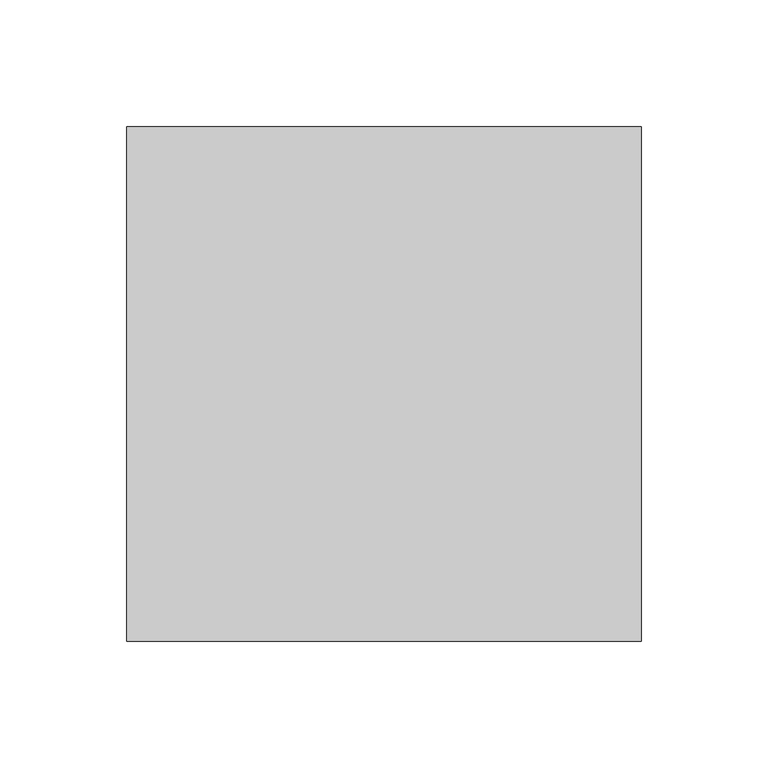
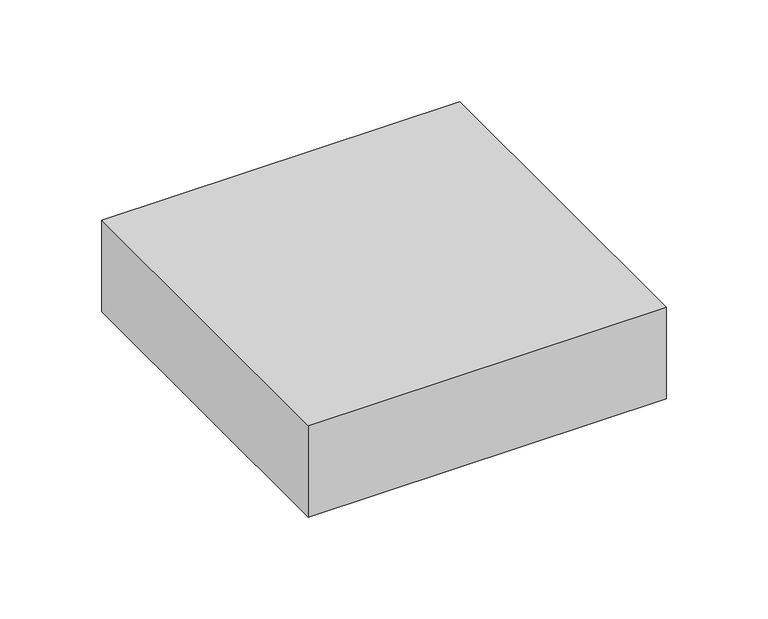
"""IFC4 building model written with IfcOpenShell, lengths in millimetres: proxy geometry, Placeholder_Polyseam : Placeholder_Polyseam."""

import ifcopenshell
import ifcopenshell.guid

model = None  # the IFC model being written
_history = None  # IfcOwnerHistory: only IFC2X3 demands one
_inside = {}  # id of a spatial element -> (the spatial element, [elements in it])
_under = {}  # id of a project, library or spatial element -> (it, [spatial elements below it])
_declared = {}  # id of a project -> (the project, [libraries it declares])
_typed = {}  # id of a type object -> (the type object, [elements of that type])
_made_of = {}  # id of a material, layer set ... -> (it, [elements and type objects made of it])


def new_model(schema):
    """Start an empty IFC model of exactly this schema.

    Asked for "IFC4X3", IfcOpenShell would pick the latest addendum, in which some entities
    have other attributes; the version numbers below select the first issue.
    IFC2X3 requires an IfcOwnerHistory on every rooted entity: one is made here for all.
    """
    global model, _history
    if schema == "IFC4X3":
        model = ifcopenshell.file(schema_version=(4, 3, 0, 0))
    else:
        model = ifcopenshell.file(schema=schema)
    _inside.clear()
    _under.clear()
    _declared.clear()
    _typed.clear()
    _made_of.clear()
    _history = None
    if model.schema == "IFC2X3":
        org = make("IfcOrganization", Name="unknown")
        user = make(
            "IfcPersonAndOrganization",
            ThePerson=make("IfcPerson", FamilyName="unknown"),
            TheOrganization=org,
        )
        app = make(
            "IfcApplication",
            ApplicationDeveloper=org,
            Version="unknown",
            ApplicationFullName="unknown",
            ApplicationIdentifier="unknown",
        )
        _history = make(
            "IfcOwnerHistory",
            OwningUser=user,
            OwningApplication=app,
            ChangeAction="ADDED",
            CreationDate=0,
        )
    return model


def make(cls, **values):
    """One entity of the class cls with the attributes given. An attribute that is None is left unset."""
    return model.create_entity(
        cls, **{name: value for name, value in values.items() if value is not None}
    )


def rooted(cls, **values):
    """An entity with a GlobalId (a new one), such as an element, a storey or a relation."""
    return make(cls, GlobalId=ifcopenshell.guid.new(), OwnerHistory=_history, **values)


def si_unit(unit_type, name, prefix=None):
    """IfcSIUnit, for example si_unit("LENGTHUNIT", "METRE", prefix="MILLI")."""
    return make("IfcSIUnit", UnitType=unit_type, Prefix=prefix, Name=name)


def assignment(units):
    """IfcUnitAssignment: the units of a project."""
    return None if units is None else make("IfcUnitAssignment", Units=units)


def point(xyz):
    """IfcCartesianPoint."""
    return None if xyz is None else make("IfcCartesianPoint", Coordinates=xyz)


def direction(xyz):
    """IfcDirection."""
    return None if xyz is None else make("IfcDirection", DirectionRatios=xyz)


def frame(location, z_axis=None, x_axis=None):
    """IfcAxis2Placement3D, a coordinate frame: its origin and axes. An axis left out is left unset."""
    return make(
        "IfcAxis2Placement3D",
        Location=point(location),
        Axis=direction(z_axis),
        RefDirection=direction(x_axis),
    )


def origin():
    """The frame at (0, 0, 0) with its axes left unset."""
    return frame((0.0, 0.0, 0.0))


def origin_with_axes():
    """The frame at (0, 0, 0) with the z axis (0, 0, 1) and the x axis (1, 0, 0) written out."""
    return frame((0.0, 0.0, 0.0), z_axis=(0.0, 0.0, 1.0), x_axis=(1.0, 0.0, 0.0))


def place(relative_to, where):
    """IfcLocalPlacement: puts the frame where relative to a parent placement (None: the world)."""
    return make(
        "IfcLocalPlacement", PlacementRelTo=relative_to, RelativePlacement=where
    )


def context(
    kind, dimensions, precision=None, world=None, true_north=None, identifier=None
):
    """IfcGeometricRepresentationContext, for example the 3D "Model" context."""
    return make(
        "IfcGeometricRepresentationContext",
        ContextIdentifier=identifier,
        ContextType=kind,
        CoordinateSpaceDimension=dimensions,
        Precision=precision,
        WorldCoordinateSystem=world,
        TrueNorth=true_north,
    )


def project(units=None, contexts=None):
    """IfcProject with its units and contexts."""
    return rooted(
        "IfcProject",
        Name="project",
        RepresentationContexts=contexts,
        UnitsInContext=assignment(units),
    )


def spatial(cls, under=None, at=None, **own):
    """A site, building, storey or space (cls), placed at a placement, below another one or the project."""
    s = rooted(cls, ObjectPlacement=at, **own)
    if under is not None:
        _under.setdefault(under.id(), (under, []))[1].append(s)
    return s


def polyline(points):
    """IfcPolyline through the points."""
    return make("IfcPolyline", Points=[point(p) for p in points])


def outline(outer, holes=None, kind="AREA"):
    """IfcArbitraryClosedProfileDef: a profile drawn as a closed curve; with holes, ...WithVoids."""
    if holes is None:
        return make("IfcArbitraryClosedProfileDef", ProfileType=kind, OuterCurve=outer)
    return make(
        "IfcArbitraryProfileDefWithVoids",
        ProfileType=kind,
        OuterCurve=outer,
        InnerCurves=holes,
    )


def extrude(swept, where, along, depth):
    """IfcExtrudedAreaSolid: the profile swept, set in the frame where, extruded along a direction by depth."""
    return make(
        "IfcExtrudedAreaSolid",
        SweptArea=swept,
        Position=where,
        ExtrudedDirection=direction(along),
        Depth=depth,
    )


def shape(context_of_items, identifier, shape_type, items):
    """IfcShapeRepresentation: the items that make up one representation, for example the "Body"."""
    return make(
        "IfcShapeRepresentation",
        ContextOfItems=context_of_items,
        RepresentationIdentifier=identifier,
        RepresentationType=shape_type,
        Items=items,
    )


def source(mapping_origin, context_of_items, identifier, shape_type, items):
    """IfcRepresentationMap: a shape defined once, which mapped items show again and again."""
    return make(
        "IfcRepresentationMap",
        MappingOrigin=mapping_origin,
        MappedRepresentation=shape(context_of_items, identifier, shape_type, items),
    )


def transform(
    local_origin,
    x_axis=None,
    y_axis=None,
    z_axis=None,
    scale=None,
    scale2=None,
    scale3=None,
    uniform=True,
):
    """IfcCartesianTransformationOperator3D, or its non-uniform kind. x_axis, y_axis, z_axis: its Axis1, 2, 3."""
    if uniform:
        return make(
            "IfcCartesianTransformationOperator3D",
            Axis1=direction(x_axis),
            Axis2=direction(y_axis),
            LocalOrigin=point(local_origin),
            Scale=scale,
            Axis3=direction(z_axis),
        )
    return make(
        "IfcCartesianTransformationOperator3DnonUniform",
        Axis1=direction(x_axis),
        Axis2=direction(y_axis),
        LocalOrigin=point(local_origin),
        Scale=scale,
        Axis3=direction(z_axis),
        Scale2=scale2,
        Scale3=scale3,
    )


def mapped(mapping_source, mapping_target):
    """IfcMappedItem: shows the shape of a source again, moved by a transform."""
    return make(
        "IfcMappedItem", MappingSource=mapping_source, MappingTarget=mapping_target
    )


def made_of(thing, what):
    """Note that an element or type object is made of a material, layer set ...; save() writes the relation."""
    if what is not None:
        _made_of.setdefault(what.id(), (what, []))[1].append(thing)
    return thing


def element(
    cls,
    number,
    at=None,
    inside=None,
    cuts=None,
    type_object=None,
    material=None,
    context=None,
    identifier="Body",
    shape_type=None,
    held_by="IfcProductDefinitionShape",
    body=None,
    shapes=None,
    **own,
):
    """One element of the class cls, such as IfcWall. Its Tag is "e" and its number.

    at: its placement. inside: the storey or other place that contains it. cuts: it is an
    opening in that element (IfcRelVoidsElement). A single representation is given by context,
    identifier, shape_type and body (its items); several are given by shapes. held_by: the class
    of the entity that holds the representations. save() writes the other relations.
    """
    e = rooted(cls, Tag="e%d" % number, ObjectPlacement=at, **own)
    if body is not None:
        shapes = [shape(context, identifier, shape_type, body)]
    if shapes is not None:
        e.Representation = make(held_by, Representations=shapes)
    if inside is not None:
        _inside.setdefault(inside.id(), (inside, []))[1].append(e)
    if cuts is not None:
        rooted(
            "IfcRelVoidsElement", RelatingBuildingElement=cuts, RelatedOpeningElement=e
        )
    if type_object is not None:
        _typed.setdefault(type_object.id(), (type_object, []))[1].append(e)
    return made_of(e, material)


def aggregate(whole, parts):
    """IfcRelAggregates: a whole, such as a stair, and the parts it consists of."""
    return rooted("IfcRelAggregates", RelatingObject=whole, RelatedObjects=parts)


def save(model, path):
    """Write the relations noted so far, then the file.

    IfcRelAggregates (storeys below a building ...), IfcRelContainedInSpatialStructure (elements
    in a storey), IfcRelDefinesByType, IfcRelAssociatesMaterial and IfcRelDeclares: one each for
    every whole, place, type object, material and project.
    """
    for whole, parts in _under.values():
        aggregate(whole, parts)
    for where, things in _inside.values():
        rooted(
            "IfcRelContainedInSpatialStructure",
            RelatedElements=things,
            RelatingStructure=where,
        )
    for kind, things in _typed.values():
        rooted("IfcRelDefinesByType", RelatedObjects=things, RelatingType=kind)
    for what, things in _made_of.values():
        rooted("IfcRelAssociatesMaterial", RelatedObjects=things, RelatingMaterial=what)
    for by, libraries in _declared.values():
        rooted("IfcRelDeclares", RelatingContext=by, RelatedDefinitions=libraries)
    model.write(path)


def generic_models_ba264c56(model_context):
    return source(origin(), model_context, "Body", "SweptSolid", [
        extrude(outline(polyline([(-101.6, 101.6), (101.6, 101.6), (101.6, -101.6), (-101.6, -101.6), (-101.6, 101.6)])), origin_with_axes(), (0.0, 0.0, 1.0), 55.0),
    ])


if __name__ == "__main__":
    model = new_model("IFC4")
    model_context = context("Model", 3, world=origin())
    ifc_project = project(units=[si_unit("LENGTHUNIT", "METRE", prefix="MILLI")], contexts=[model_context])
    site = spatial("IfcSite", under=ifc_project)
    building = spatial("IfcBuilding", under=site)
    placement = place(None, origin())
    generic_models_shape = generic_models_ba264c56(model_context)
    element("IfcBuildingElementProxy", 1, Name="Placeholder_Polyseam : Placeholder_Polyseam", ObjectType="Placeholder_Polyseam : Placeholder_Polyseam", at=placement, inside=building, context=model_context, shape_type="MappedRepresentation", body=[
        mapped(generic_models_shape, transform((0.0, 0.0, 0.0), x_axis=(1.0, 0.0, 0.0), y_axis=(0.0, 1.0, 0.0), z_axis=(0.0, 0.0, 1.0))),
    ])
    save(model, "model.ifc")
